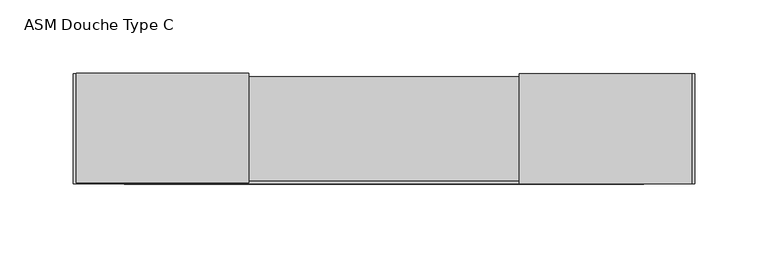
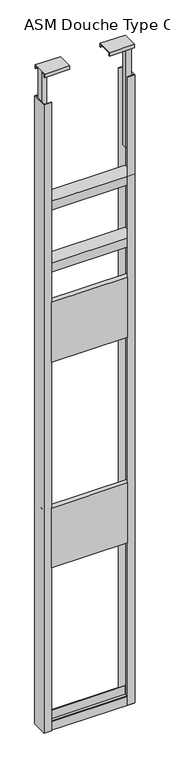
"""IFC4 building model written with IfcOpenShell, lengths in millimetres: flow terminal geometry, NLRS_74_PF_TLB_ASM Douche Type C greep-zitje_Geberit : ASM Douche Type C."""

from ifc_helpers import new_model, si_unit, frame, origin, place, context, project, spatial, polyline, outline, extrude, faceted_brep, source, transform, mapped, element, save


def asm_douche_type_c_48a24752(model_context):
    return source(origin(), model_context, "Body", "SolidModel", [
        extrude(outline(polyline([(1031.0814924, 2.0), (997.0814924, 2.0), (997.0814924, 0.0), (642.0814924, 0.0), (642.0814924, 2.0), (608.0814924, 2.0), (608.0814924, 24.0), (1031.0814924, 24.0), (1031.0814924, 2.0)])), frame((0.0, 0.0, 1767.5), z_axis=(0.0, 0.0, 1.0), x_axis=(1.0, 0.0, 0.0)), (0.0, 0.0, 1.0), 295.0),
        extrude(outline(polyline([(1031.0814924, 2.0), (997.0814924, 2.0), (997.0814924, 0.0), (642.0814924, 0.0), (642.0814924, 2.0), (608.0814924, 2.0), (608.0814924, 24.0), (1031.0814924, 24.0), (1031.0814924, 2.0)])), frame((0.0, 0.0, 752.5), z_axis=(0.0, 0.0, 1.0), x_axis=(1.0, 0.0, 0.0)), (0.0, 0.0, 1.0), 295.0),
        extrude(outline(polyline([(2.0, 2516.0), (2.0, 2560.0), (73.0, 2560.0), (73.0, 2516.0), (71.0, 2516.0), (71.0, 2558.0), (4.0, 2558.0), (4.0, 2516.0), (2.0, 2516.0)])), frame((612.0814924, 0.0, 0.0), z_axis=(1.0, 0.0, 0.0), x_axis=(0.0, 1.0, 0.0)), (0.0, 0.0, 1.0), 415.0),
        extrude(outline(polyline([(2.0, 2211.0), (2.0, 2255.0), (73.0, 2255.0), (73.0, 2211.0), (71.0, 2211.0), (71.0, 2253.0), (4.0, 2253.0), (4.0, 2211.0), (2.0, 2211.0)])), frame((612.0814924, 0.0, 0.0), z_axis=(1.0, 0.0, 0.0), x_axis=(0.0, 1.0, 0.0)), (0.0, 0.0, 1.0), 415.0),
        extrude(outline(polyline([(997.0814924, 0.0), (997.0814924, 2.0), (1030.0814924, 2.0), (1030.0814924, 73.0), (997.0814924, 73.0), (997.0814924, 75.0), (1032.0814924, 75.0), (1032.0814924, 0.0), (997.0814924, 0.0)])), frame((0.0, 0.0, -50.0), z_axis=(0.0, 0.0, 1.0), x_axis=(1.0, 0.0, 0.0)), (0.0, 0.0, 1.0), 3100.0),
        extrude(outline(polyline([(642.0814924, 0.0), (607.0814924, 0.0), (607.0814924, 75.0), (642.0814924, 75.0), (642.0814924, 73.0), (609.0814924, 73.0), (609.0814924, 2.0), (642.0814924, 2.0), (642.0814924, 0.0)])), frame((0.0, 0.0, -50.0), z_axis=(0.0, 0.0, 1.0), x_axis=(1.0, 0.0, 0.0)), (0.0, 0.0, 1.0), 3100.0),
        extrude(outline(polyline([(2.0, -6.0), (4.0, -6.0), (4.0, -48.0), (71.0, -48.0), (71.0, -6.0), (73.0, -6.0), (73.0, -50.0), (2.0, -50.0), (2.0, -6.0)])), frame((612.0814924, 0.0, 0.0), z_axis=(1.0, 0.0, 0.0), x_axis=(0.0, 1.0, 0.0)), (0.0, 0.0, 1.0), 415.0),
        faceted_brep([(912.0814924, 0.0, 3183.0), (912.0814924, 0.0, 3200.0), (912.0814924, 75.0, 3200.0), (912.0814924, 75.0, 3183.0), (912.0814924, 73.0, 3183.0), (912.0814924, 73.0, 3198.0), (912.0814924, 2.0, 3198.0), (912.0814924, 2.0, 3183.0), (1030.0814924, 0.0, 3183.0), (1030.0814924, 2.0, 3183.0), (1030.0814924, 2.0, 3198.0), (1030.0814924, 25.0, 3198.0), (1030.0814924, 25.0, 2683.0), (1030.0814924, 50.0, 2683.0), (1030.0814924, 50.0, 3198.0), (1030.0814924, 73.0, 3198.0), (1030.0814924, 73.0, 3183.0), (1030.0814924, 75.0, 3183.0), (1030.0814924, 75.0, 3200.0), (1030.0814924, 0.0, 3200.0), (1005.0814924, 50.0, 3198.0), (1005.0814924, 25.0, 3198.0), (1005.0814924, 25.0, 2683.0), (1005.0814924, 50.0, 2683.0)], [[[0, 1, 2, 3, 4, 5, 6, 7]], [[8, 9, 10, 11, 12, 13, 14, 15, 16, 17, 18, 19]], [[0, 7, 9, 8]], [[7, 6, 10, 9]], [[6, 5, 15, 14, 20, 21, 11, 10]], [[5, 4, 16, 15]], [[4, 3, 17, 16]], [[3, 2, 18, 17]], [[2, 1, 19, 18]], [[1, 0, 8, 19]], [[22, 23, 13, 12]], [[22, 12, 11, 21]], [[13, 23, 20, 14]], [[23, 22, 21, 20]]]),
        faceted_brep([(727.0814924, 0.5, 3183.0), (727.0814924, 2.5, 3183.0), (727.0814924, 2.5, 3198.0), (727.0814924, 73.5, 3198.0), (727.0814924, 73.5, 3183.0), (727.0814924, 75.5, 3183.0), (727.0814924, 75.5, 3200.0), (727.0814924, 0.5, 3200.0), (609.0814924, 0.5, 3183.0), (609.0814924, 0.5, 3200.0), (609.0814924, 75.5, 3200.0), (609.0814924, 75.5, 3183.0), (609.0814924, 73.5, 3183.0), (609.0814924, 73.5, 3198.0), (609.0814924, 50.5, 3198.0), (609.0814924, 50.5, 2683.0), (609.0814924, 25.5, 2683.0), (609.0814924, 25.5, 3198.0), (609.0814924, 2.5, 3198.0), (609.0814924, 2.5, 3183.0), (634.0814924, 25.5, 3198.0), (634.0814924, 50.5, 3198.0), (634.0814924, 25.5, 2683.0), (634.0814924, 50.5, 2683.0)], [[[0, 1, 2, 3, 4, 5, 6, 7]], [[8, 9, 10, 11, 12, 13, 14, 15, 16, 17, 18, 19]], [[0, 8, 19, 1]], [[1, 19, 18, 2]], [[2, 18, 17, 20, 21, 14, 13, 3]], [[3, 13, 12, 4]], [[4, 12, 11, 5]], [[5, 11, 10, 6]], [[6, 10, 9, 7]], [[7, 9, 8, 0]], [[22, 16, 15, 23]], [[22, 20, 17, 16]], [[15, 14, 21, 23]], [[23, 21, 20, 22]]]),
    ])


if __name__ == "__main__":
    model = new_model("IFC4")
    model_context = context("Model", 3, world=origin())
    ifc_project = project(units=[si_unit("LENGTHUNIT", "METRE", prefix="MILLI")], contexts=[model_context])
    site = spatial("IfcSite", under=ifc_project)
    building = spatial("IfcBuilding", under=site)
    placement = place(None, origin())
    asm_douche_type_c_shape = asm_douche_type_c_48a24752(model_context)
    element("IfcFlowTerminal", 1, ObjectType="NLRS_74_PF_TLB_ASM Douche Type C greep-zitje_Geberit : ASM Douche Type C", at=placement, inside=building, context=model_context, shape_type="MappedRepresentation", body=[
        mapped(asm_douche_type_c_shape, transform((0.0, 0.0, 0.0), x_axis=(1.0, 0.0, 0.0), y_axis=(0.0, 1.0, 0.0), z_axis=(0.0, 0.0, 1.0))),
    ])
    save(model, "model.ifc")
